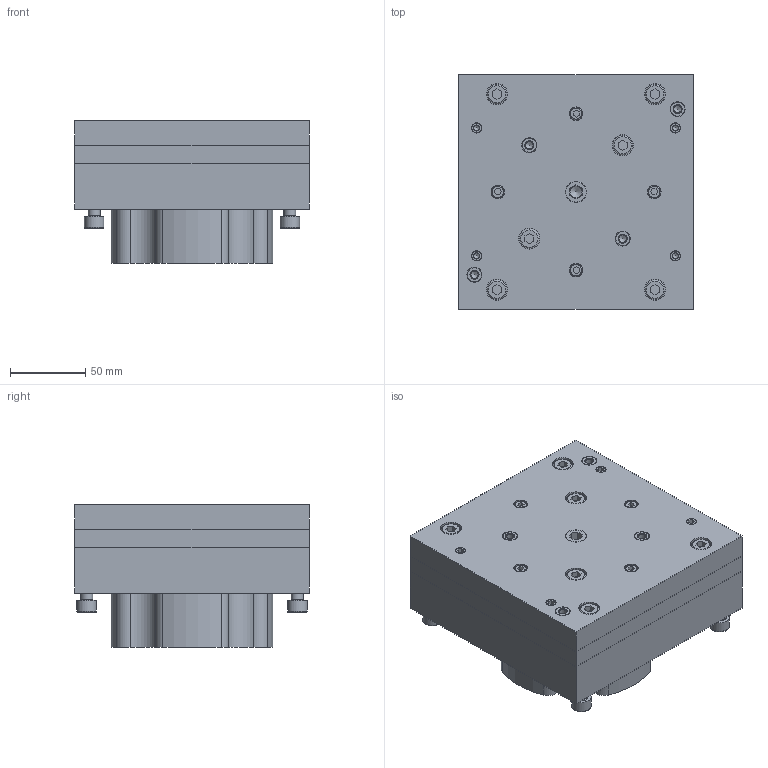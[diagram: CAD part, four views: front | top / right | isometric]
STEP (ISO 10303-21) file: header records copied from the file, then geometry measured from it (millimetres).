
FILE_DESCRIPTION(/* description */ (''),/* implementation_level */ '2;1');
FILE_NAME(/* name */ 'MOULE PLATEAU 49-50-51.step',/* time_stamp */ '2023-08-10T15:31:36+02:00',/* author */ (''),/* organization */ (''),/* preprocessor_version */ 'ST-DEVELOPER v20',/* originating_system */ 'Autodesk Translation Framework v12.9.0.99',/* authorisation */ '');
FILE_SCHEMA (('AUTOMOTIVE_DESIGN { 1 0 10303 214 3 1 1 }'));
Products named in the file (27): Moule plateau composite; BeltRing GMP51; BeltRing GMP50; BeltRing GMP49; moule compression; base; denture 51 (1); noyau central; bati; axe 1; axe3; axe4; axe2; flanc presseur; plaque presse; butée; E_1303_10x40_1 v1; E 1230_16x30; E 1230_16x16; E 1200_8x25; E 1303_10x40; E 1200_8x35; E 1200_5x16; E 1200_5x40; E_1230_8x16_1 v1; denture 50 (1); denture 49 (1)
Assembly tree (54 placements, depth 3):
  Moule plateau composite
    BeltRing GMP51
    BeltRing GMP50
    BeltRing GMP49
    moule compression
      base
      denture 51 (1)
      noyau central
      bati
      axe 1
      axe3
      axe4
      axe2
      flanc presseur
      plaque presse
      butée
    E_1303_10x40_1 v1
      E 1303_10x40  x4
      E 1230_16x30
      E 1230_16x16
      E 1200_8x35  x8
      E 1200_8x25  x2
      E 1200_5x16  x8
      E 1200_5x40  x8
      E_1230_8x16_1 v1  x4
    denture 50 (1)
    denture 49 (1)
Bounding box: 156 x 156 x 94.67 mm (x, y, z)
Volume: 2064511.9 mm3; surface area: 495454.7 mm2
Topology: 52 solids, 52 shells, 3758 faces, 10301 edges, 6755 vertices
Faces by surface type: cylinder 1930, plane 1470, bspline 148, cone 122, torus 84, sphere 4
Full cylindrical faces by diameter (mm): 4.234 x16, 4.91 x4, 4.92 x4, 5 x16, 5.02 x8, 5.5 x16, 6.779 x14, 8 x14, 8.02 x8, 8.5 x34, 9 x4, 10 x26, 10.2 x20, 10.5 x4, 12.2 x20, 13 x10, 14 x10, 14.023 x2, 16 x2, 133.706 x5
Entity records: 114799 total; most frequent: CARTESIAN_POINT 24882, DIRECTION 19476, ORIENTED_EDGE 18736, EDGE_CURVE 9368, AXIS2_PLACEMENT_3D 7287, VERTEX_POINT 6177, LINE 4902, VECTOR 4902
